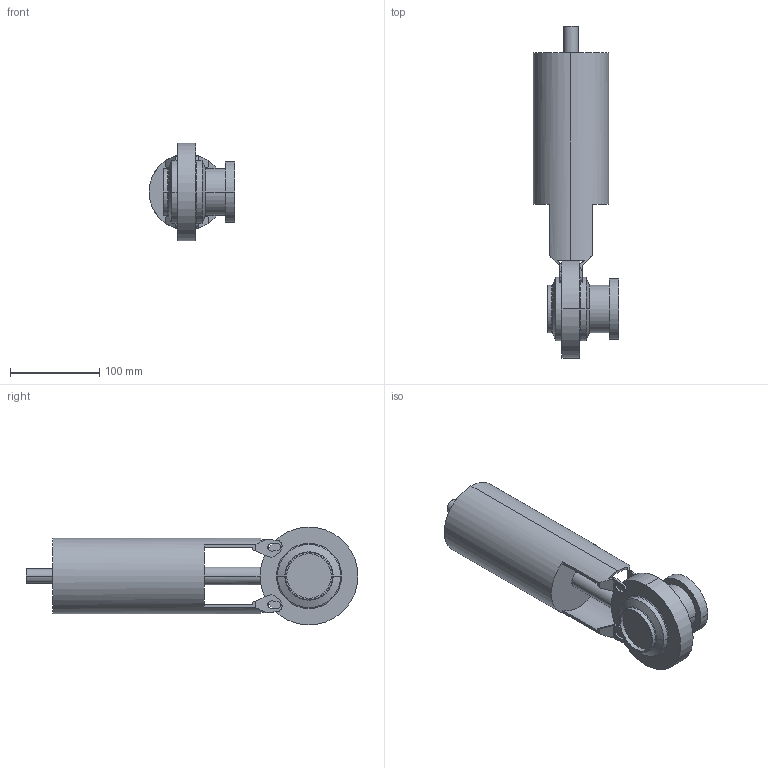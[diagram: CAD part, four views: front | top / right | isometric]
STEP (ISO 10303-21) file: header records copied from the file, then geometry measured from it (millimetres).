
FILE_DESCRIPTION(('Creo Elements/Direct Modeling STEP Export'),'2;1');
FILE_NAME('SV1-50-FZ-1S-2K.stp','2012-11-06T14:31:45',(''),(''),'Creo Elements/Direct Modeling STEP processor for AP214 (Solid Model)','Creo Elements/Direct Modeling 17.0D 15-Jul-2011 (C) Parametric Technology GmbH','');
FILE_SCHEMA(('AUTOMOTIVE_DESIGN { 1 0 10303 214 1 1 1 1 }'));
Length unit declared in the file: millimetre
Products named in the file (2): SV1-50-FZ-1S-2K
Assembly tree (1 placements, depth 2):
  SV1-50-FZ-1S-2K
    SV1-50-FZ-1S-2K
Bounding box: 96.5 x 372.88 x 110 mm (x, y, z)
Volume: 1370025.7 mm3; surface area: 118095.1 mm2
Topology: 1 solids, 1 shells, 120 faces, 338 edges, 214 vertices
Faces by surface type: plane 73, cylinder 35, torus 8, cone 4
Entity records: 4199 total; most frequent: CARTESIAN_POINT 1156, ORIENTED_EDGE 676, DIRECTION 600, EDGE_CURVE 338, VERTEX_POINT 214, AXIS2_PLACEMENT_3D 206, VECTOR 188, LINE 188
